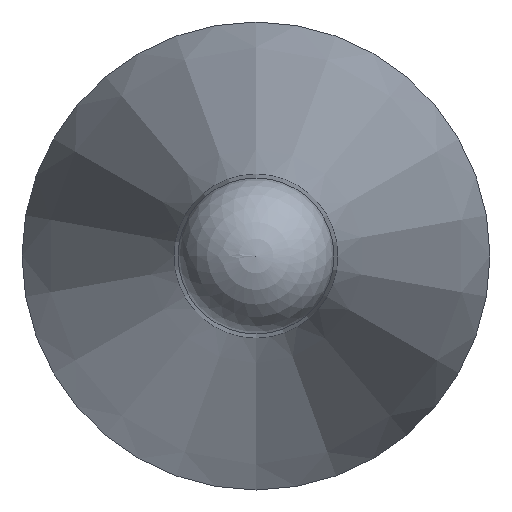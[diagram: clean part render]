
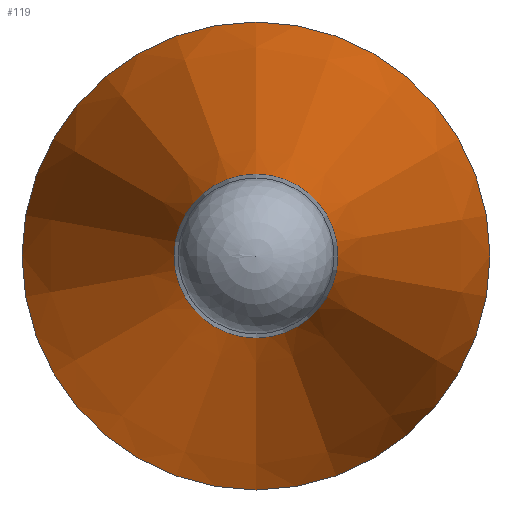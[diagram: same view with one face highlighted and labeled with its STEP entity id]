
A CAD part, left-side view. The second image highlights one B-rep face of the part: STEP entity #119.
In plain terms, the highlighted conical face has half-angle 12 degrees and reference radius 3 mm.
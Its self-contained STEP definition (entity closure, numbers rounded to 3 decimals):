
#97=CONICAL_SURFACE('',#194,3.,12.);
#106=FACE_BOUND('',#134,.T.);
#107=FACE_BOUND('',#135,.T.);
#119=ADVANCED_FACE('',(#106,#107),#97,.T.);
#134=EDGE_LOOP('',(#150));
#135=EDGE_LOOP('',(#151));
#150=ORIENTED_EDGE('',*,*,#172,.T.);
#151=ORIENTED_EDGE('',*,*,#173,.F.);
#164=VERTEX_POINT('',#249);
#165=VERTEX_POINT('',#252);
#172=EDGE_CURVE('',#164,#164,#180,.T.);
#173=EDGE_CURVE('',#165,#165,#181,.T.);
#180=CIRCLE('',#191,1.05);
#181=CIRCLE('',#193,3.);
#191=AXIS2_PLACEMENT_3D('',#248,#215,#216);
#193=AXIS2_PLACEMENT_3D('',#251,#219,#220);
#194=AXIS2_PLACEMENT_3D('',#253,#221,#222);
#215=DIRECTION('',(1.,0.,0.));
#216=DIRECTION('',(0.,0.,-1.));
#219=DIRECTION('',(1.,0.,0.));
#220=DIRECTION('',(0.,0.,-1.));
#221=DIRECTION('',(1.,0.,0.));
#222=DIRECTION('',(0.,0.,-1.));
#248=CARTESIAN_POINT('',(7909.912,6103.288,0.));
#249=CARTESIAN_POINT('',(7909.912,6103.288,-1.05));
#251=CARTESIAN_POINT('',(7919.086,6103.288,0.));
#252=CARTESIAN_POINT('',(7919.086,6103.288,-3.));
#253=CARTESIAN_POINT('',(7919.086,6103.288,0.));
